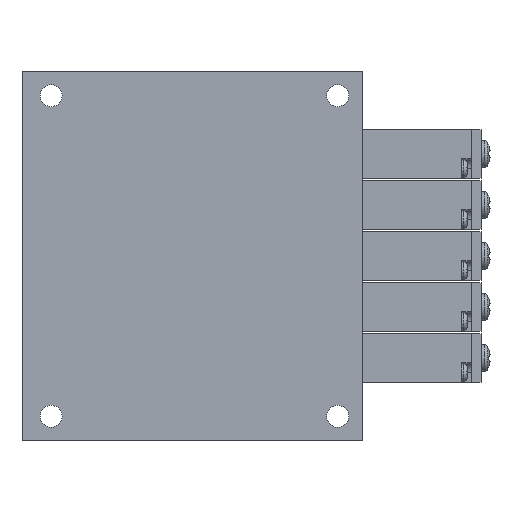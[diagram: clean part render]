
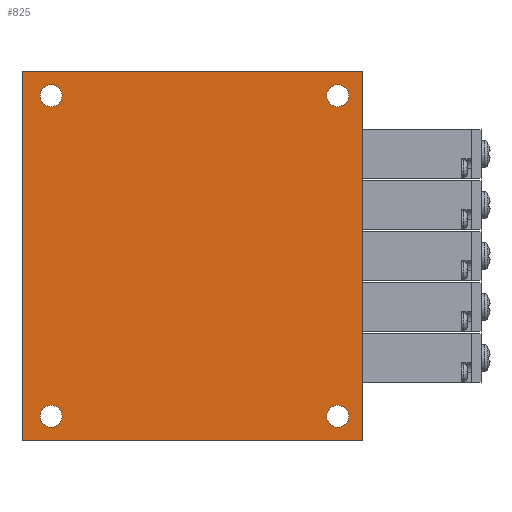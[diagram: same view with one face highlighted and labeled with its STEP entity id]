
A CAD part, front view. The second image highlights one B-rep face of the part: STEP entity #825.
In plain terms, the highlighted planar face has unit normal (0, -1, 0).
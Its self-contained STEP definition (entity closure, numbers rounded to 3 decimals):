
#825=ADVANCED_FACE('',(#1507,#1508,#1509,#1510,#1511),#1512,.F.);
#1507=FACE_OUTER_BOUND('',#2204,.T.);
#1508=FACE_BOUND('',#2205,.T.);
#1509=FACE_BOUND('',#2206,.T.);
#1510=FACE_BOUND('',#2207,.T.);
#1511=FACE_BOUND('',#2208,.T.);
#1512=PLANE('',#2209);
#2204=EDGE_LOOP('',(#4558,#4559,#4560,#4561));
#2205=EDGE_LOOP('',(#4562));
#2206=EDGE_LOOP('',(#4563));
#2207=EDGE_LOOP('',(#4564));
#2208=EDGE_LOOP('',(#4565));
#2209=AXIS2_PLACEMENT_3D('',#4566,#4567,#4568);
#4558=ORIENTED_EDGE('',*,*,#5335,.T.);
#4559=ORIENTED_EDGE('',*,*,#5323,.F.);
#4560=ORIENTED_EDGE('',*,*,#5309,.F.);
#4561=ORIENTED_EDGE('',*,*,#5336,.T.);
#4562=ORIENTED_EDGE('',*,*,#5327,.F.);
#4563=ORIENTED_EDGE('',*,*,#5325,.F.);
#4564=ORIENTED_EDGE('',*,*,#5329,.F.);
#4565=ORIENTED_EDGE('',*,*,#5334,.F.);
#4566=CARTESIAN_POINT('',(0.0,0.0,38.0));
#4567=DIRECTION('',(-0.0,1.0,0.0));
#4568=DIRECTION('',(1.0,0.0,0.0));
#5309=EDGE_CURVE('',#6531,#6533,#6534,.T.);
#5323=EDGE_CURVE('',#6533,#6556,#6560,.T.);
#5325=EDGE_CURVE('',#6563,#6563,#6564,.T.);
#5327=EDGE_CURVE('',#6567,#6567,#6568,.T.);
#5329=EDGE_CURVE('',#6571,#6571,#6572,.T.);
#5334=EDGE_CURVE('',#6580,#6580,#6581,.T.);
#5335=EDGE_CURVE('',#6582,#6556,#6583,.T.);
#5336=EDGE_CURVE('',#6531,#6582,#6584,.T.);
#6531=VERTEX_POINT('',#8616);
#6533=VERTEX_POINT('',#8619);
#6534=LINE('',#8620,#8621);
#6556=VERTEX_POINT('',#8644);
#6560=LINE('',#8650,#8651);
#6563=VERTEX_POINT('',#8654);
#6564=CIRCLE('',#8655,2.25);
#6567=VERTEX_POINT('',#8658);
#6568=CIRCLE('',#8659,2.25);
#6571=VERTEX_POINT('',#8662);
#6572=CIRCLE('',#8663,2.25);
#6580=VERTEX_POINT('',#8673);
#6581=CIRCLE('',#8674,2.25);
#6582=VERTEX_POINT('',#8675);
#6583=LINE('',#8676,#8677);
#6584=LINE('',#8678,#8679);
#8616=CARTESIAN_POINT('',(0.0,0.0,38.0));
#8619=CARTESIAN_POINT('',(70.0,0.0,38.0));
#8620=CARTESIAN_POINT('',(0.0,0.0,38.0));
#8621=VECTOR('',#9657,1.0);
#8644=CARTESIAN_POINT('',(70.0,0.0,-38.0));
#8650=CARTESIAN_POINT('',(70.0,0.0,38.0));
#8651=VECTOR('',#9691,1.0);
#8654=CARTESIAN_POINT('',(65.0,0.0,-30.75));
#8655=AXIS2_PLACEMENT_3D('',#9695,#9696,#9697);
#8658=CARTESIAN_POINT('',(6.0,0.0,35.25));
#8659=AXIS2_PLACEMENT_3D('',#9701,#9702,#9703);
#8662=CARTESIAN_POINT('',(6.0,0.0,-30.75));
#8663=AXIS2_PLACEMENT_3D('',#9707,#9708,#9709);
#8673=CARTESIAN_POINT('',(65.0,0.0,35.25));
#8674=AXIS2_PLACEMENT_3D('',#9718,#9719,#9720);
#8675=CARTESIAN_POINT('',(0.0,0.0,-38.0));
#8676=CARTESIAN_POINT('',(0.0,0.0,-38.0));
#8677=VECTOR('',#9721,1.0);
#8678=CARTESIAN_POINT('',(0.0,0.0,38.0));
#8679=VECTOR('',#9722,1.0);
#9657=DIRECTION('',(1.0,0.0,0.0));
#9691=DIRECTION('',(0.0,0.0,-1.0));
#9695=CARTESIAN_POINT('',(65.0,0.0,-33.0));
#9696=DIRECTION('',(0.0,-1.0,0.0));
#9697=DIRECTION('',(0.0,0.0,1.0));
#9701=CARTESIAN_POINT('',(6.0,0.0,33.0));
#9702=DIRECTION('',(0.0,-1.0,0.0));
#9703=DIRECTION('',(0.0,0.0,1.0));
#9707=CARTESIAN_POINT('',(6.0,0.0,-33.0));
#9708=DIRECTION('',(0.0,-1.0,0.0));
#9709=DIRECTION('',(0.0,0.0,1.0));
#9718=CARTESIAN_POINT('',(65.0,0.0,33.0));
#9719=DIRECTION('',(0.0,-1.0,0.0));
#9720=DIRECTION('',(0.0,0.0,1.0));
#9721=DIRECTION('',(1.0,0.0,0.0));
#9722=DIRECTION('',(0.0,0.0,-1.0));
